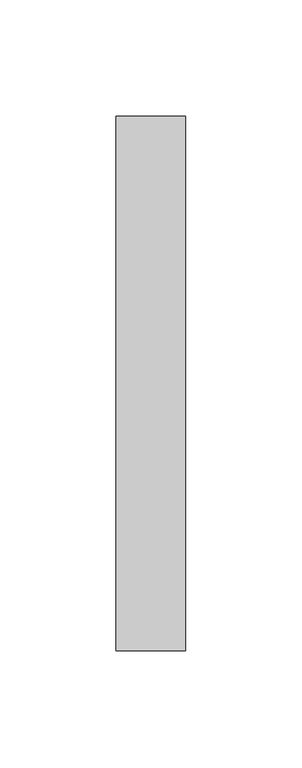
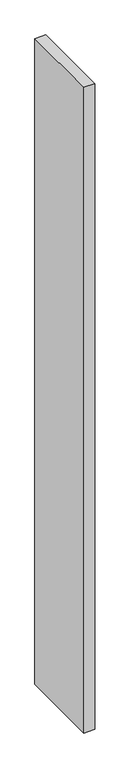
"""IFC4 building model written with IfcOpenShell, lengths in millimetres: furniture geometry, Divisoria_Lateral Fechada : Divisoria_Lateral Fechada_130x180."""

from ifc_helpers import new_model, si_unit, frame, origin, place, context, project, spatial, polyline, outline, extrude, source, transform, mapped, element, save


def furniture_be9011ed(model_context):
    return source(origin(), model_context, "Body", "SweptSolid", [
        extrude(outline(polyline([(59.7003264, 50.0), (59.7003264, -180.0), (29.7003264, -180.0), (29.7003264, 50.0), (59.7003264, 50.0)])), frame((0.0, 0.0, 50.0), z_axis=(0.0, 0.0, 1.0), x_axis=(1.0, 0.0, 0.0)), (0.0, 0.0, 1.0), 1850.0),
    ])


if __name__ == "__main__":
    model = new_model("IFC4")
    model_context = context("Model", 3, world=origin())
    ifc_project = project(units=[si_unit("LENGTHUNIT", "METRE", prefix="MILLI")], contexts=[model_context])
    site = spatial("IfcSite", under=ifc_project)
    building = spatial("IfcBuilding", under=site)
    placement = place(None, origin())
    furniture_shape = furniture_be9011ed(model_context)
    element("IfcFurniture", 1, ObjectType="Divisoria_Lateral Fechada : Divisoria_Lateral Fechada_130x180", at=placement, inside=building, context=model_context, shape_type="MappedRepresentation", body=[
        mapped(furniture_shape, transform((0.0, 0.0, 0.0), x_axis=(1.0, 0.0, 0.0), y_axis=(0.0, 1.0, 0.0), z_axis=(0.0, 0.0, 1.0))),
    ])
    save(model, "model.ifc")
